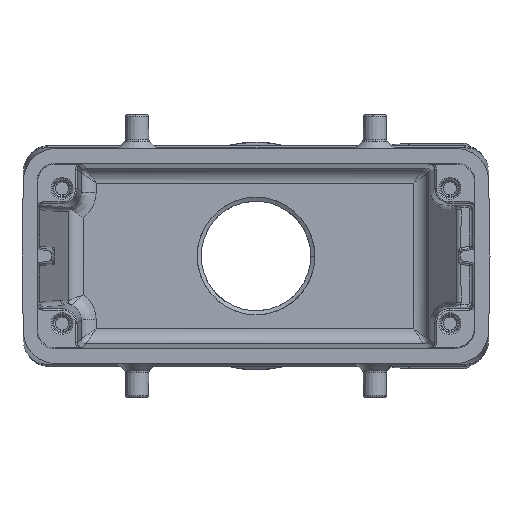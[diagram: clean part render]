
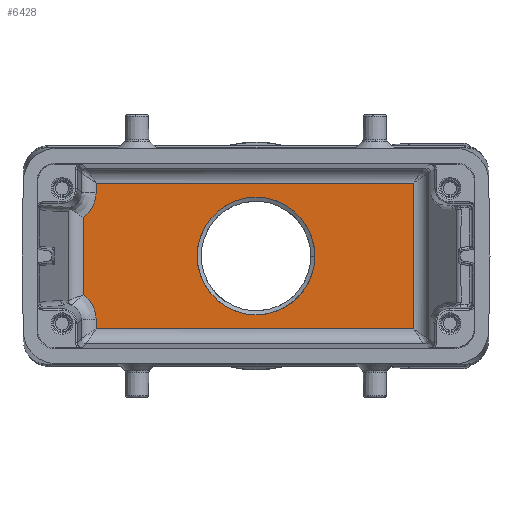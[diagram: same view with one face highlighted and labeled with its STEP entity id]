
A CAD part, front view. The second image highlights one B-rep face of the part: STEP entity #6428.
In plain terms, the highlighted planar face has unit normal (0, -1, 0).
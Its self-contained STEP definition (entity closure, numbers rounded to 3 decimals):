
#178 = FACE_OUTER_BOUND ( 'NONE', #28554, .T. ) ;
#926 = EDGE_CURVE ( 'NONE', #939, #29272, #10763, .T. ) ;
#939 = VERTEX_POINT ( 'NONE', #21448 ) ;
#1086 = VECTOR ( 'NONE', #1789, 1000. ) ;
#1213 = DIRECTION ( 'NONE',  ( 0., -1., 0. ) ) ;
#1572 = DIRECTION ( 'NONE',  ( 0., 0., -1. ) ) ;
#1734 = VECTOR ( 'NONE', #1572, 1000. ) ;
#1789 = DIRECTION ( 'NONE',  ( -1., 0., 0. ) ) ;
#2235 = CARTESIAN_POINT ( 'NONE',  ( -32.175, 70., -11.028 ) ) ;
#2372 = CARTESIAN_POINT ( 'NONE',  ( -31.942, 70., 12.447 ) ) ;
#2433 = EDGE_CURVE ( 'NONE', #8319, #17991, #28208, .T. ) ;
#3233 = CARTESIAN_POINT ( 'NONE',  ( -34.509, 70.011, -7.769 ) ) ;
#3540 = CARTESIAN_POINT ( 'NONE',  ( -31.941, 70., 14.564 ) ) ;
#3781 = ORIENTED_EDGE ( 'NONE', *, *, #28207, .T. ) ;
#3996 = CARTESIAN_POINT ( 'NONE',  ( -51.563, 70., -18.5 ) ) ;
#4063 = CARTESIAN_POINT ( 'NONE',  ( -33.597, 70., -8.551 ) ) ;
#4575 = VERTEX_POINT ( 'NONE', #5118 ) ;
#4777 = EDGE_CURVE ( 'NONE', #18913, #8176, #12500, .T. ) ;
#5118 = CARTESIAN_POINT ( 'NONE',  ( -31.941, 70., 12.691 ) ) ;
#5248 = DIRECTION ( 'NONE',  ( 0., 0., -1. ) ) ;
#5286 = CIRCLE ( 'NONE', #7524, 11.75 ) ;
#5331 = EDGE_CURVE ( 'NONE', #27199, #939, #5286, .T. ) ;
#5404 = B_SPLINE_CURVE_WITH_KNOTS ( 'NONE', 3,
 ( #8826, #16395, #28409, #16182, #4063, #26161, #13833, #30777, #21075, #30892, #16287, #2235, #9443, #19258, #19359, #17116 ),
 .UNSPECIFIED., .F., .F.,
 ( 4, 1, 2, 2, 2, 1, 2, 2, 4 ),
 ( 0., 0.125, 0.188, 0.25, 0.5, 0.625, 0.688, 0.75, 1. ),
 .UNSPECIFIED. ) ;
#6205 = PLANE ( 'NONE',  #15702 ) ;
#6276 = B_SPLINE_CURVE_WITH_KNOTS ( 'NONE', 3,
 ( #31525, #2372, #19176, #11913, #7425, #28952, #12121, #31417, #17142, #24453, #16931, #29156, #26599, #26806, #7217, #9781 ),
 .UNSPECIFIED., .F., .F.,
 ( 4, 1, 2, 2, 2, 1, 2, 2, 4 ),
 ( 0., 0.125, 0.188, 0.25, 0.5, 0.625, 0.688, 0.75, 1. ),
 .UNSPECIFIED. ) ;
#6427 = CARTESIAN_POINT ( 'NONE',  ( -31.941, 70., -18.5 ) ) ;
#6428 = ADVANCED_FACE ( 'NONE', ( #26088, #178 ), #6205, .T. ) ;
#6786 = EDGE_CURVE ( 'NONE', #24549, #12803, #15029, .T. ) ;
#7088 = ORIENTED_EDGE ( 'NONE', *, *, #24348, .T. ) ;
#7217 = CARTESIAN_POINT ( 'NONE',  ( -34.11, 70., 8.049 ) ) ;
#7425 = CARTESIAN_POINT ( 'NONE',  ( -32.06, 70., 11.495 ) ) ;
#7524 = AXIS2_PLACEMENT_3D ( 'NONE', #14911, #26826, #5248 ) ;
#7774 = CARTESIAN_POINT ( 'NONE',  ( -34.509, 70.013, 7.769 ) ) ;
#7942 = EDGE_CURVE ( 'NONE', #29272, #27199, #8132, .T. ) ;
#8132 = CIRCLE ( 'NONE', #15941, 11.75 ) ;
#8176 = VERTEX_POINT ( 'NONE', #3540 ) ;
#8319 = VERTEX_POINT ( 'NONE', #13826 ) ;
#8420 = VECTOR ( 'NONE', #15542, 1000. ) ;
#8675 = CARTESIAN_POINT ( 'NONE',  ( 0., 70., 0. ) ) ;
#8751 = VECTOR ( 'NONE', #18903, 1000. ) ;
#8826 = CARTESIAN_POINT ( 'NONE',  ( -34.509, 70.011, -7.769 ) ) ;
#9012 = DIRECTION ( 'NONE',  ( 0., 1., 0. ) ) ;
#9443 = CARTESIAN_POINT ( 'NONE',  ( -32.142, 70., -11.146 ) ) ;
#9534 = VECTOR ( 'NONE', #30108, 1000. ) ;
#9781 = CARTESIAN_POINT ( 'NONE',  ( -34.509, 70.013, 7.769 ) ) ;
#10518 = ORIENTED_EDGE ( 'NONE', *, *, #11875, .T. ) ;
#10608 = CARTESIAN_POINT ( 'NONE',  ( -31.941, 70., -18.5 ) ) ;
#10763 = CIRCLE ( 'NONE', #12530, 11.75 ) ;
#11206 = DIRECTION ( 'NONE',  ( 0., 0., -1. ) ) ;
#11624 = EDGE_LOOP ( 'NONE', ( #27089, #24505, #28820 ) ) ;
#11875 = EDGE_CURVE ( 'NONE', #17991, #27587, #27436, .T. ) ;
#11913 = CARTESIAN_POINT ( 'NONE',  ( -32.017, 70., 11.731 ) ) ;
#12121 = CARTESIAN_POINT ( 'NONE',  ( -32.229, 70., 10.792 ) ) ;
#12500 = LINE ( 'NONE', #28690, #1086 ) ;
#12530 = AXIS2_PLACEMENT_3D ( 'NONE', #23571, #9012, #26034 ) ;
#12803 = VERTEX_POINT ( 'NONE', #3233 ) ;
#13382 = CARTESIAN_POINT ( 'NONE',  ( -34.509, 70., -18.5 ) ) ;
#13826 = CARTESIAN_POINT ( 'NONE',  ( -31.941, 70., -12.691 ) ) ;
#13833 = CARTESIAN_POINT ( 'NONE',  ( -33.117, 70., -9.091 ) ) ;
#14042 = CARTESIAN_POINT ( 'NONE',  ( 31.477, 70., 14.564 ) ) ;
#14911 = CARTESIAN_POINT ( 'NONE',  ( 0., 70., 0. ) ) ;
#15029 = LINE ( 'NONE', #13382, #1734 ) ;
#15542 = DIRECTION ( 'NONE',  ( 1., 0., 0. ) ) ;
#15702 = AXIS2_PLACEMENT_3D ( 'NONE', #3996, #1213, #11206 ) ;
#15941 = AXIS2_PLACEMENT_3D ( 'NONE', #8675, #25708, #28058 ) ;
#15991 = EDGE_CURVE ( 'NONE', #4575, #24549, #6276, .T. ) ;
#16182 = CARTESIAN_POINT ( 'NONE',  ( -33.766, 70., -8.381 ) ) ;
#16287 = CARTESIAN_POINT ( 'NONE',  ( -32.246, 70., -10.798 ) ) ;
#16395 = CARTESIAN_POINT ( 'NONE',  ( -34.31, 70., -7.909 ) ) ;
#16931 = CARTESIAN_POINT ( 'NONE',  ( -33.131, 70., 9.102 ) ) ;
#17116 = CARTESIAN_POINT ( 'NONE',  ( -31.941, 70., -12.691 ) ) ;
#17142 = CARTESIAN_POINT ( 'NONE',  ( -32.733, 70., 9.701 ) ) ;
#17991 = VERTEX_POINT ( 'NONE', #26446 ) ;
#18338 = CARTESIAN_POINT ( 'NONE',  ( 31.477, 70., -18.5 ) ) ;
#18382 = EDGE_CURVE ( 'NONE', #27587, #18913, #27526, .T. ) ;
#18515 = CARTESIAN_POINT ( 'NONE',  ( 0., 70., 11.75 ) ) ;
#18903 = DIRECTION ( 'NONE',  ( 0., 0., -1. ) ) ;
#18913 = VERTEX_POINT ( 'NONE', #14042 ) ;
#19176 = CARTESIAN_POINT ( 'NONE',  ( -31.964, 70., 12.086 ) ) ;
#19258 = CARTESIAN_POINT ( 'NONE',  ( -32., 70., -11.727 ) ) ;
#19359 = CARTESIAN_POINT ( 'NONE',  ( -31.942, 70., -12.203 ) ) ;
#20917 = CARTESIAN_POINT ( 'NONE',  ( 0., 70., -11.75 ) ) ;
#21075 = CARTESIAN_POINT ( 'NONE',  ( -32.51, 70., -10.129 ) ) ;
#21448 = CARTESIAN_POINT ( 'NONE',  ( 11.75, 70., 0. ) ) ;
#23546 = ORIENTED_EDGE ( 'NONE', *, *, #6786, .T. ) ;
#23571 = CARTESIAN_POINT ( 'NONE',  ( 0., 70., 0. ) ) ;
#24348 = EDGE_CURVE ( 'NONE', #8176, #4575, #26245, .T. ) ;
#24453 = CARTESIAN_POINT ( 'NONE',  ( -32.919, 70., 9.393 ) ) ;
#24505 = ORIENTED_EDGE ( 'NONE', *, *, #7942, .T. ) ;
#24549 = VERTEX_POINT ( 'NONE', #7774 ) ;
#25708 = DIRECTION ( 'NONE',  ( 0., 1., 0. ) ) ;
#25728 = ORIENTED_EDGE ( 'NONE', *, *, #15991, .T. ) ;
#26034 = DIRECTION ( 'NONE',  ( 0., 0., -1. ) ) ;
#26088 = FACE_BOUND ( 'NONE', #11624, .T. ) ;
#26161 = CARTESIAN_POINT ( 'NONE',  ( -33.516, 70., -8.637 ) ) ;
#26245 = LINE ( 'NONE', #6427, #8751 ) ;
#26446 = CARTESIAN_POINT ( 'NONE',  ( -31.941, 70., -14.564 ) ) ;
#26599 = CARTESIAN_POINT ( 'NONE',  ( -33.357, 70., 8.818 ) ) ;
#26806 = CARTESIAN_POINT ( 'NONE',  ( -33.753, 70., 8.368 ) ) ;
#26826 = DIRECTION ( 'NONE',  ( 0., 1., 0. ) ) ;
#27089 = ORIENTED_EDGE ( 'NONE', *, *, #926, .T. ) ;
#27199 = VERTEX_POINT ( 'NONE', #18515 ) ;
#27436 = LINE ( 'NONE', #30137, #8420 ) ;
#27492 = CARTESIAN_POINT ( 'NONE',  ( 31.477, 70., -14.564 ) ) ;
#27526 = LINE ( 'NONE', #18338, #27899 ) ;
#27587 = VERTEX_POINT ( 'NONE', #27492 ) ;
#27899 = VECTOR ( 'NONE', #28215, 1000. ) ;
#28058 = DIRECTION ( 'NONE',  ( 0., 0., -1. ) ) ;
#28207 = EDGE_CURVE ( 'NONE', #12803, #8319, #5404, .T. ) ;
#28208 = LINE ( 'NONE', #10608, #9534 ) ;
#28215 = DIRECTION ( 'NONE',  ( 0., 0., 1. ) ) ;
#28295 = ORIENTED_EDGE ( 'NONE', *, *, #4777, .T. ) ;
#28409 = CARTESIAN_POINT ( 'NONE',  ( -34.026, 70., -8.133 ) ) ;
#28554 = EDGE_LOOP ( 'NONE', ( #29645, #28295, #7088, #25728, #23546, #3781, #28863, #10518 ) ) ;
#28690 = CARTESIAN_POINT ( 'NONE',  ( -265.727, 70., 14.564 ) ) ;
#28820 = ORIENTED_EDGE ( 'NONE', *, *, #5331, .T. ) ;
#28863 = ORIENTED_EDGE ( 'NONE', *, *, #2433, .T. ) ;
#28952 = CARTESIAN_POINT ( 'NONE',  ( -32.085, 70., 11.38 ) ) ;
#29156 = CARTESIAN_POINT ( 'NONE',  ( -33.279, 70., 8.912 ) ) ;
#29272 = VERTEX_POINT ( 'NONE', #20917 ) ;
#29645 = ORIENTED_EDGE ( 'NONE', *, *, #18382, .T. ) ;
#30108 = DIRECTION ( 'NONE',  ( 0., 0., -1. ) ) ;
#30137 = CARTESIAN_POINT ( 'NONE',  ( -51.563, 70., -14.564 ) ) ;
#30777 = CARTESIAN_POINT ( 'NONE',  ( -32.845, 70., -9.488 ) ) ;
#30892 = CARTESIAN_POINT ( 'NONE',  ( -32.363, 70., -10.458 ) ) ;
#31417 = CARTESIAN_POINT ( 'NONE',  ( -32.399, 70., 10.342 ) ) ;
#31525 = CARTESIAN_POINT ( 'NONE',  ( -31.941, 70., 12.691 ) ) ;
